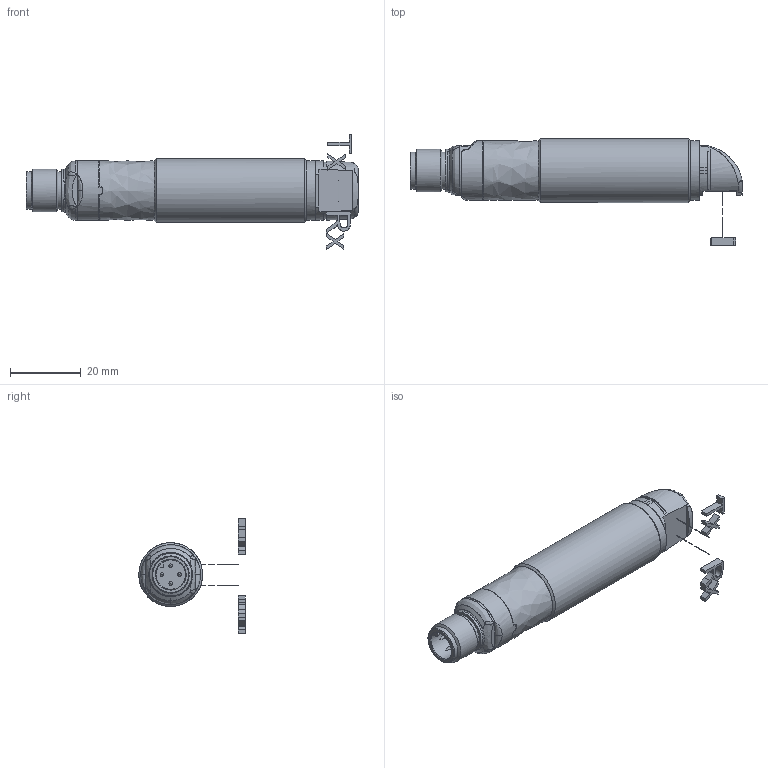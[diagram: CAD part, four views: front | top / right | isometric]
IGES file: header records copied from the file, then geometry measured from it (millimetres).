
Global section: file name: D:\TMP\DSD-0115.igs; preprocessor: I-DEAS 3D IGES Translator 11; date: 20060608.114313; units: millimetre
Bounding box: 93.6 x 30 x 32.47 mm (x, y, z)
Surface area: 10546.6 mm2
Topology: 8 solids, 8 shells, 252 faces, 1233 edges, 1130 vertices
Faces by surface type: bspline 252
